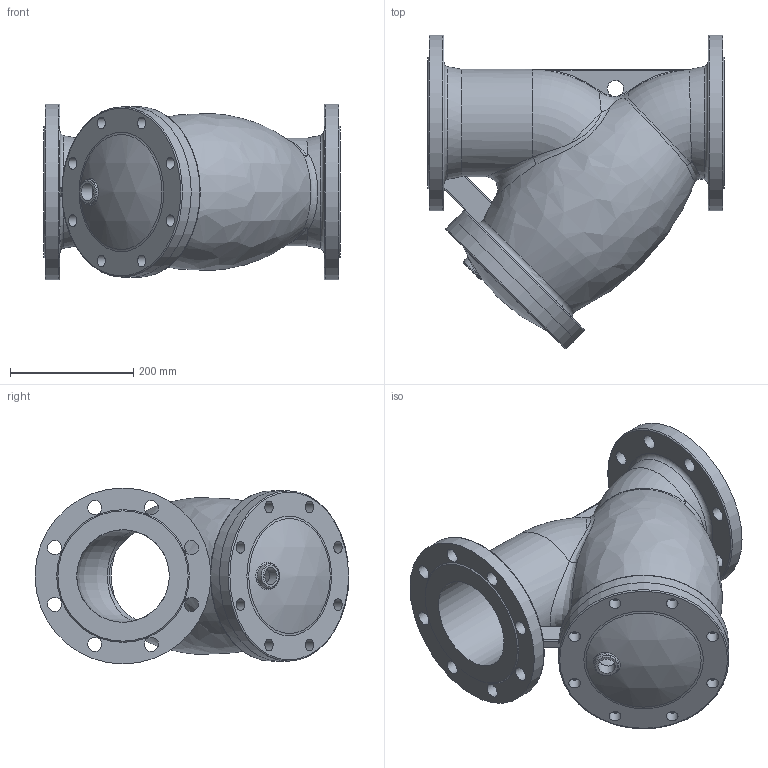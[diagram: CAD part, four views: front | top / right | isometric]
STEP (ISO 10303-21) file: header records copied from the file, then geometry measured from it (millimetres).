
FILE_DESCRIPTION(/* description */ ('STEP AP203'),/* implementation_level */ '2;1');
FILE_NAME(/* name */ '',/* time_stamp */ '2024-12-10T11:51:18+07:00',/* author */ ('Eva'),/* organization */ (''),/* preprocessor_version */ 'ST-DEVELOPER v20',/* originating_system */ 'Autodesk Inventor 2025',/* authorisation */ '');
FILE_SCHEMA (('AUTOMOTIVE_DESIGN { 1 0 10303 214 3 1 1 }'));
Length unit declared in the file: metre
Products named in the file (4): 德标过滤器150装配体1; 德标过滤器150装配体1(2
); 150阀体; 150阀盖
Assembly tree (3 placements, depth 3):
  德标过滤器150装配体1
    德标过滤器150装配体1(2
)
      150阀体
      150阀盖
Bounding box: 480 x 508.65 x 285 mm (x, y, z)
Volume: 8559584.7 mm3; surface area: 1207649 mm2
Topology: 2 solids, 2 shells, 135 faces, 380 edges, 246 vertices
Faces by surface type: cylinder 57, plane 26, bspline 25, torus 20, cone 5, sphere 2
Full cylindrical faces by diameter (mm): 16 x8, 19 x8, 23 x16, 26 x1, 28 x1, 150 x4, 164 x1, 166 x1, 174 x1, 276 x2, 285 x2
Entity records: 11828 total; most frequent: CARTESIAN_POINT 8182, ORIENTED_EDGE 760, DIRECTION 714, EDGE_CURVE 380, AXIS2_PLACEMENT_3D 318, VERTEX_POINT 246, EDGE_LOOP 206, CIRCLE 196
